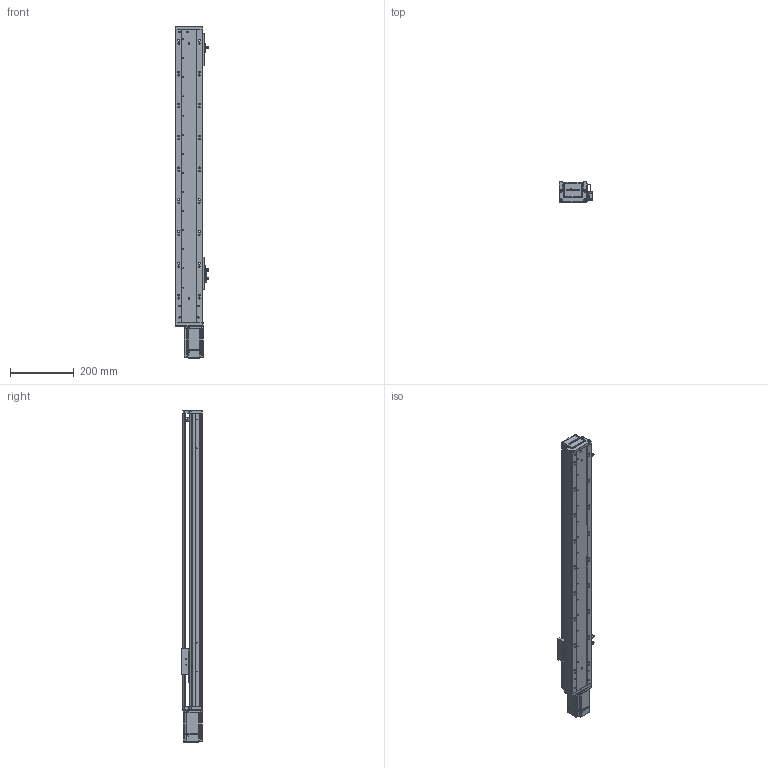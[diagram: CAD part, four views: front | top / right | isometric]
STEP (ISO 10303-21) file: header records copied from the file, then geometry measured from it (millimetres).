
FILE_DESCRIPTION (( 'STEP AP203' ), '1' );
FILE_NAME ('RY80-L1620-300-MK.SLDASM_700.step', '2021-02-20T02:33:33', ( '' ), ( '' ), 'SwSTEP 2.0', 'SolidWorks 2012', '' );
FILE_SCHEMA (( 'CONFIG_CONTROL_DESIGN' ));
Length unit declared in the file: millimetre
Products named in the file (14): RY80綴裔啣; RY80-L1620-300-MK.SLDASM_700; RY80前盖板(100W电机 PCD46 M4); 覜茼ん672; 滅袉蝶18-24; RY80俋离覜茼え; 672嫖萇羲壽假蚾釱; 滅袉蝶18-10; 侂狟200W萇儂; 1; RY80前盖板(200W电机)M4; RY80-300-MK倰第菁釱_700; RY80-300-MK倰第奻裔啣_700; RY80臏賑輸
Assembly tree (16 placements, depth 3):
  RY80-L1620-300-MK.SLDASM_700
    RY80-300-MK倰第菁釱_700
    RY80臏賑輸
    RY80-300-MK倰第奻裔啣_700
    RY80前盖板(200W电机)M4
    侂狟200W萇儂
      1
    滅袉蝶18-10
    672嫖萇羲壽假蚾釱  x2
    覜茼ん672  x3
    RY80俋离覜茼え
    滅袉蝶18-24
    RY80綴裔啣
    RY80前盖板(100W电机 PCD46 M4)
Bounding box: 103.7 x 65 x 1042 mm (x, y, z)
Volume: 1761408.9 mm3; surface area: 670736.6 mm2
Topology: 15 solids, 15 shells, 2132 faces, 5910 edges, 3849 vertices
Faces by surface type: plane 1133, cylinder 814, cone 131, bspline 54
Entity records: 68513 total; most frequent: CARTESIAN_POINT 17917, ORIENTED_EDGE 10560, DIRECTION 9739, EDGE_CURVE 5280, VERTEX_POINT 3465, AXIS2_PLACEMENT_3D 3293, VECTOR 3153, LINE 3153
